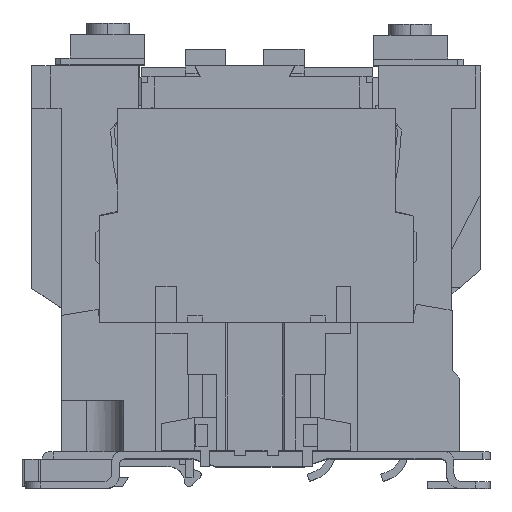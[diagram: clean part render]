
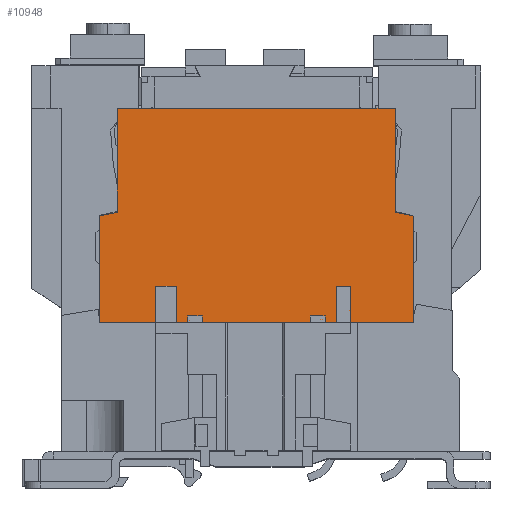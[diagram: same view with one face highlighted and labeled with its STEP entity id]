
A CAD part, top view. The second image highlights one B-rep face of the part: STEP entity #10948.
In plain terms, the highlighted planar face has unit normal (0, 0, 1).
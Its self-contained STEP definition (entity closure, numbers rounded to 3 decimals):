
#6987 = DIRECTION ( 'NONE',  ( 1., 0., 0. ) ) ;
#6988 = VECTOR ( 'NONE', #6987, 1000. ) ;
#6989 = CARTESIAN_POINT ( 'NONE',  ( 0., 58.3, 0. ) ) ;
#6990 = LINE ( 'NONE', #6989, #6988 ) ;
#7364 = CARTESIAN_POINT ( 'NONE',  ( 90.75, 58.3, 0. ) ) ;
#7687 = CARTESIAN_POINT ( 'NONE',  ( 15.25, 58.3, 0. ) ) ;
#10765 = VERTEX_POINT ( 'NONE', #29042 ) ;
#10766 = VERTEX_POINT ( 'NONE', #29041 ) ;
#10826 = EDGE_CURVE ( 'NONE', #10766, #10765, #29130, .T. ) ;
#10948 = ADVANCED_FACE ( 'NONE', ( #29360 ), #29359, .F. ) ;
#10949 = EDGE_LOOP ( 'NONE', ( #11007, #11011, #11013, #11014, #11017, #11020, #10994, #10995 ) ) ;
#10994 = ORIENTED_EDGE ( 'NONE', *, *, #10826, .T. ) ;
#10995 = ORIENTED_EDGE ( 'NONE', *, *, #10996, .T. ) ;
#10996 = EDGE_CURVE ( 'NONE', #10765, #11010, #29463, .T. ) ;
#11007 = ORIENTED_EDGE ( 'NONE', *, *, #11008, .F. ) ;
#11008 = EDGE_CURVE ( 'NONE', #11009, #11010, #29443, .T. ) ;
#11009 = VERTEX_POINT ( 'NONE', #29439 ) ;
#11010 = VERTEX_POINT ( 'NONE', #29438 ) ;
#11011 = ORIENTED_EDGE ( 'NONE', *, *, #11012, .F. ) ;
#11012 = EDGE_CURVE ( 'NONE', #23947, #11009, #29501, .T. ) ;
#11013 = ORIENTED_EDGE ( 'NONE', *, *, #23740, .F. ) ;
#11014 = ORIENTED_EDGE ( 'NONE', *, *, #11015, .F. ) ;
#11015 = EDGE_CURVE ( 'NONE', #11016, #24119, #29497, .T. ) ;
#11016 = VERTEX_POINT ( 'NONE', #29493 ) ;
#11017 = ORIENTED_EDGE ( 'NONE', *, *, #11018, .F. ) ;
#11018 = EDGE_CURVE ( 'NONE', #11019, #11016, #29492, .T. ) ;
#11019 = VERTEX_POINT ( 'NONE', #29488 ) ;
#11020 = ORIENTED_EDGE ( 'NONE', *, *, #11021, .F. ) ;
#11021 = EDGE_CURVE ( 'NONE', #10766, #11019, #29487, .T. ) ;
#23740 = EDGE_CURVE ( 'NONE', #24119, #23947, #6990, .T. ) ;
#23947 = VERTEX_POINT ( 'NONE', #7364 ) ;
#24119 = VERTEX_POINT ( 'NONE', #7687 ) ;
#29041 = CARTESIAN_POINT ( 'NONE',  ( 10.3, 0., 0. ) ) ;
#29042 = CARTESIAN_POINT ( 'NONE',  ( 95.7, 0., 0. ) ) ;
#29127 = DIRECTION ( 'NONE',  ( 1., 0., 0. ) ) ;
#29128 = VECTOR ( 'NONE', #29127, 1000. ) ;
#29129 = CARTESIAN_POINT ( 'NONE',  ( 0., 0., 0. ) ) ;
#29130 = LINE ( 'NONE', #29129, #29128 ) ;
#29355 = DIRECTION ( 'NONE',  ( -1., 0., 0. ) ) ;
#29356 = DIRECTION ( 'NONE',  ( 0., 0., -1. ) ) ;
#29357 = CARTESIAN_POINT ( 'NONE',  ( 0., 58.3, 0. ) ) ;
#29358 = AXIS2_PLACEMENT_3D ( 'NONE', #29357, #29356, #29355 ) ;
#29359 = PLANE ( 'NONE',  #29358 ) ;
#29360 = FACE_OUTER_BOUND ( 'NONE', #10949, .T. ) ;
#29438 = CARTESIAN_POINT ( 'NONE',  ( 95.7, 29.038, 0. ) ) ;
#29439 = CARTESIAN_POINT ( 'NONE',  ( 90.75, 30.1, 0. ) ) ;
#29440 = DIRECTION ( 'NONE',  ( 0.978, -0.21, 0. ) ) ;
#29441 = VECTOR ( 'NONE', #29440, 1000. ) ;
#29442 = CARTESIAN_POINT ( 'NONE',  ( 95.7, 29.038, 0. ) ) ;
#29443 = LINE ( 'NONE', #29442, #29441 ) ;
#29460 = DIRECTION ( 'NONE',  ( 0., 1., 0. ) ) ;
#29461 = VECTOR ( 'NONE', #29460, 1000. ) ;
#29462 = CARTESIAN_POINT ( 'NONE',  ( 95.7, 0., 0. ) ) ;
#29463 = LINE ( 'NONE', #29462, #29461 ) ;
#29484 = DIRECTION ( 'NONE',  ( 0., 1., 0. ) ) ;
#29485 = VECTOR ( 'NONE', #29484, 1000. ) ;
#29486 = CARTESIAN_POINT ( 'NONE',  ( 10.3, 0., 0. ) ) ;
#29487 = LINE ( 'NONE', #29486, #29485 ) ;
#29488 = CARTESIAN_POINT ( 'NONE',  ( 10.3, 29.038, 0. ) ) ;
#29489 = DIRECTION ( 'NONE',  ( 0.978, 0.21, 0. ) ) ;
#29490 = VECTOR ( 'NONE', #29489, 1000. ) ;
#29491 = CARTESIAN_POINT ( 'NONE',  ( 10.3, 29.038, 0. ) ) ;
#29492 = LINE ( 'NONE', #29491, #29490 ) ;
#29493 = CARTESIAN_POINT ( 'NONE',  ( 15.25, 30.1, 0. ) ) ;
#29494 = DIRECTION ( 'NONE',  ( 0., 1., 0. ) ) ;
#29495 = VECTOR ( 'NONE', #29494, 1000. ) ;
#29496 = CARTESIAN_POINT ( 'NONE',  ( 15.25, 58.3, 0. ) ) ;
#29497 = LINE ( 'NONE', #29496, #29495 ) ;
#29498 = DIRECTION ( 'NONE',  ( 0., -1., 0. ) ) ;
#29499 = VECTOR ( 'NONE', #29498, 1000. ) ;
#29500 = CARTESIAN_POINT ( 'NONE',  ( 90.75, 58.3, 0. ) ) ;
#29501 = LINE ( 'NONE', #29500, #29499 ) ;
